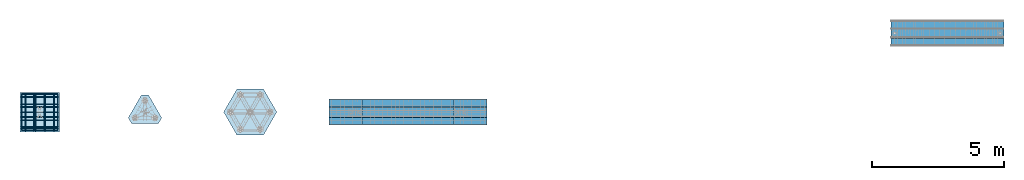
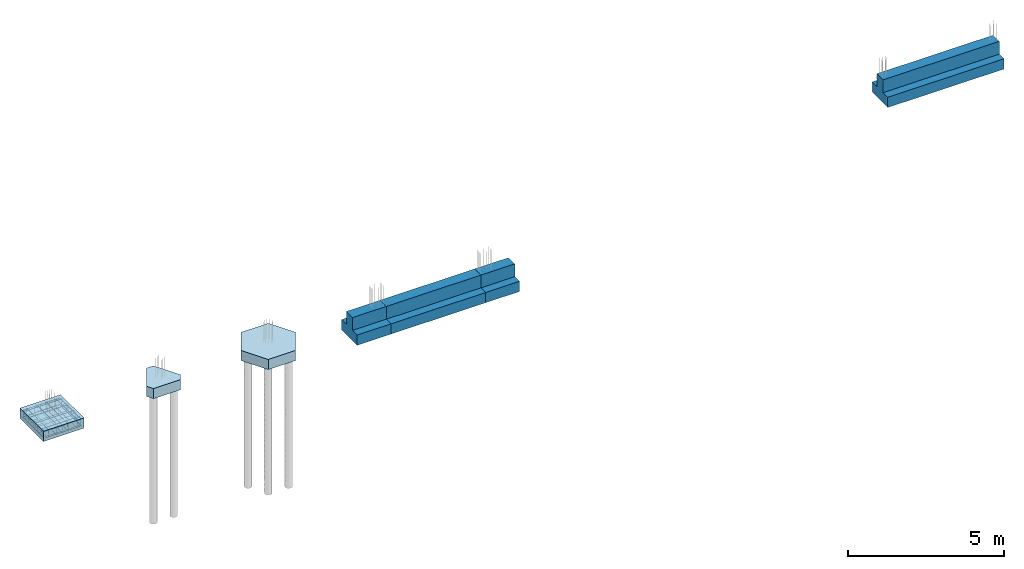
# One storey, part 1 of 23: 5 reinforcing bars, 4 beams, 3 slabs.
"""IFC2X3 building model written with IfcOpenShell, lengths in metres."""

import ifcopenshell
import ifcopenshell.guid

model = None  # the IFC model being written
_history = None  # IfcOwnerHistory: only IFC2X3 demands one
_inside = {}  # id of a spatial element -> (the spatial element, [elements in it])
_under = {}  # id of a project, library or spatial element -> (it, [spatial elements below it])
_declared = {}  # id of a project -> (the project, [libraries it declares])
_typed = {}  # id of a type object -> (the type object, [elements of that type])
_made_of = {}  # id of a material, layer set ... -> (it, [elements and type objects made of it])


def new_model(schema):
    """Start an empty IFC model of exactly this schema.

    Asked for "IFC4X3", IfcOpenShell would pick the latest addendum, in which some entities
    have other attributes; the version numbers below select the first issue.
    IFC2X3 requires an IfcOwnerHistory on every rooted entity: one is made here for all.
    """
    global model, _history
    if schema == "IFC4X3":
        model = ifcopenshell.file(schema_version=(4, 3, 0, 0))
    else:
        model = ifcopenshell.file(schema=schema)
    _inside.clear()
    _under.clear()
    _declared.clear()
    _typed.clear()
    _made_of.clear()
    _history = None
    if model.schema == "IFC2X3":
        org = make("IfcOrganization", Name="unknown")
        user = make(
            "IfcPersonAndOrganization",
            ThePerson=make("IfcPerson", FamilyName="unknown"),
            TheOrganization=org,
        )
        app = make(
            "IfcApplication",
            ApplicationDeveloper=org,
            Version="unknown",
            ApplicationFullName="unknown",
            ApplicationIdentifier="unknown",
        )
        _history = make(
            "IfcOwnerHistory",
            OwningUser=user,
            OwningApplication=app,
            ChangeAction="ADDED",
            CreationDate=0,
        )
    return model


def make(cls, **values):
    """One entity of the class cls with the attributes given. An attribute that is None is left unset."""
    return model.create_entity(
        cls, **{name: value for name, value in values.items() if value is not None}
    )


def entity(cls, *values):
    """Any entity or typed value of the class cls, its attributes in the order of the schema. None: left unset."""
    e = model.create_entity(cls)
    for i, value in enumerate(values):
        if value is not None:
            e[i] = value
    return e


def rooted(cls, **values):
    """An entity with a GlobalId (a new one), such as an element, a storey or a relation."""
    return make(cls, GlobalId=ifcopenshell.guid.new(), OwnerHistory=_history, **values)


def si_unit(unit_type, name, prefix=None):
    """IfcSIUnit, for example si_unit("LENGTHUNIT", "METRE", prefix="MILLI")."""
    return make("IfcSIUnit", UnitType=unit_type, Prefix=prefix, Name=name)


def assignment(units):
    """IfcUnitAssignment: the units of a project."""
    return None if units is None else make("IfcUnitAssignment", Units=units)


def point(xyz):
    """IfcCartesianPoint."""
    return None if xyz is None else make("IfcCartesianPoint", Coordinates=xyz)


def direction(xyz):
    """IfcDirection."""
    return None if xyz is None else make("IfcDirection", DirectionRatios=xyz)


def frame(location, z_axis=None, x_axis=None):
    """IfcAxis2Placement3D, a coordinate frame: its origin and axes. An axis left out is left unset."""
    return make(
        "IfcAxis2Placement3D",
        Location=point(location),
        Axis=direction(z_axis),
        RefDirection=direction(x_axis),
    )


def origin():
    """The frame at (0, 0, 0) with its axes left unset."""
    return frame((0.0, 0.0, 0.0))


def place(relative_to, where):
    """IfcLocalPlacement: puts the frame where relative to a parent placement (None: the world)."""
    return make(
        "IfcLocalPlacement", PlacementRelTo=relative_to, RelativePlacement=where
    )


def context(
    kind, dimensions, precision=None, world=None, true_north=None, identifier=None
):
    """IfcGeometricRepresentationContext, for example the 3D "Model" context."""
    return make(
        "IfcGeometricRepresentationContext",
        ContextIdentifier=identifier,
        ContextType=kind,
        CoordinateSpaceDimension=dimensions,
        Precision=precision,
        WorldCoordinateSystem=world,
        TrueNorth=true_north,
    )


def subcontext(parent, identifier, kind, view, scale=None):
    """IfcGeometricRepresentationSubContext, for example "Body" below "Model"."""
    return make(
        "IfcGeometricRepresentationSubContext",
        ContextIdentifier=identifier,
        ContextType=kind,
        ParentContext=parent,
        TargetScale=scale,
        TargetView=view,
    )


def project(units=None, contexts=None):
    """IfcProject with its units and contexts."""
    return rooted(
        "IfcProject",
        Name="project",
        RepresentationContexts=contexts,
        UnitsInContext=assignment(units),
    )


def spatial(cls, under=None, at=None, **own):
    """A site, building, storey or space (cls), placed at a placement, below another one or the project."""
    s = rooted(cls, ObjectPlacement=at, **own)
    if under is not None:
        _under.setdefault(under.id(), (under, []))[1].append(s)
    return s


def polyline(points):
    """IfcPolyline through the points."""
    return make("IfcPolyline", Points=[point(p) for p in points])


def outline(outer, holes=None, kind="AREA"):
    """IfcArbitraryClosedProfileDef: a profile drawn as a closed curve; with holes, ...WithVoids."""
    if holes is None:
        return make("IfcArbitraryClosedProfileDef", ProfileType=kind, OuterCurve=outer)
    return make(
        "IfcArbitraryProfileDefWithVoids",
        ProfileType=kind,
        OuterCurve=outer,
        InnerCurves=holes,
    )


def extrude(swept, where, along, depth):
    """IfcExtrudedAreaSolid: the profile swept, set in the frame where, extruded along a direction by depth."""
    return make(
        "IfcExtrudedAreaSolid",
        SweptArea=swept,
        Position=where,
        ExtrudedDirection=direction(along),
        Depth=depth,
    )


def shape(context_of_items, identifier, shape_type, items):
    """IfcShapeRepresentation: the items that make up one representation, for example the "Body"."""
    return make(
        "IfcShapeRepresentation",
        ContextOfItems=context_of_items,
        RepresentationIdentifier=identifier,
        RepresentationType=shape_type,
        Items=items,
    )


def source(mapping_origin, context_of_items, identifier, shape_type, items):
    """IfcRepresentationMap: a shape defined once, which mapped items show again and again."""
    return make(
        "IfcRepresentationMap",
        MappingOrigin=mapping_origin,
        MappedRepresentation=shape(context_of_items, identifier, shape_type, items),
    )


def transform(
    local_origin,
    x_axis=None,
    y_axis=None,
    z_axis=None,
    scale=None,
    scale2=None,
    scale3=None,
    uniform=True,
):
    """IfcCartesianTransformationOperator3D, or its non-uniform kind. x_axis, y_axis, z_axis: its Axis1, 2, 3."""
    if uniform:
        return make(
            "IfcCartesianTransformationOperator3D",
            Axis1=direction(x_axis),
            Axis2=direction(y_axis),
            LocalOrigin=point(local_origin),
            Scale=scale,
            Axis3=direction(z_axis),
        )
    return make(
        "IfcCartesianTransformationOperator3DnonUniform",
        Axis1=direction(x_axis),
        Axis2=direction(y_axis),
        LocalOrigin=point(local_origin),
        Scale=scale,
        Axis3=direction(z_axis),
        Scale2=scale2,
        Scale3=scale3,
    )


def mapped(mapping_source, mapping_target):
    """IfcMappedItem: shows the shape of a source again, moved by a transform."""
    return make(
        "IfcMappedItem", MappingSource=mapping_source, MappingTarget=mapping_target
    )


def made_of(thing, what):
    """Note that an element or type object is made of a material, layer set ...; save() writes the relation."""
    if what is not None:
        _made_of.setdefault(what.id(), (what, []))[1].append(thing)
    return thing


def element(
    cls,
    number,
    at=None,
    inside=None,
    cuts=None,
    type_object=None,
    material=None,
    context=None,
    identifier="Body",
    shape_type=None,
    held_by="IfcProductDefinitionShape",
    body=None,
    shapes=None,
    **own,
):
    """One element of the class cls, such as IfcWall. Its Tag is "e" and its number.

    at: its placement. inside: the storey or other place that contains it. cuts: it is an
    opening in that element (IfcRelVoidsElement). A single representation is given by context,
    identifier, shape_type and body (its items); several are given by shapes. held_by: the class
    of the entity that holds the representations. save() writes the other relations.
    """
    e = rooted(cls, Tag="e%d" % number, ObjectPlacement=at, **own)
    if body is not None:
        shapes = [shape(context, identifier, shape_type, body)]
    if shapes is not None:
        e.Representation = make(held_by, Representations=shapes)
    if inside is not None:
        _inside.setdefault(inside.id(), (inside, []))[1].append(e)
    if cuts is not None:
        rooted(
            "IfcRelVoidsElement", RelatingBuildingElement=cuts, RelatedOpeningElement=e
        )
    if type_object is not None:
        _typed.setdefault(type_object.id(), (type_object, []))[1].append(e)
    return made_of(e, material)


def aggregate(whole, parts):
    """IfcRelAggregates: a whole, such as a stair, and the parts it consists of."""
    return rooted("IfcRelAggregates", RelatingObject=whole, RelatedObjects=parts)


def save(model, path):
    """Write the relations noted so far, then the file.

    IfcRelAggregates (storeys below a building ...), IfcRelContainedInSpatialStructure (elements
    in a storey), IfcRelDefinesByType, IfcRelAssociatesMaterial and IfcRelDeclares: one each for
    every whole, place, type object, material and project.
    """
    for whole, parts in _under.values():
        aggregate(whole, parts)
    for where, things in _inside.values():
        rooted(
            "IfcRelContainedInSpatialStructure",
            RelatedElements=things,
            RelatingStructure=where,
        )
    for kind, things in _typed.values():
        rooted("IfcRelDefinesByType", RelatedObjects=things, RelatingType=kind)
    for what, things in _made_of.values():
        rooted("IfcRelAssociatesMaterial", RelatedObjects=things, RelatingMaterial=what)
    for by, libraries in _declared.values():
        rooted("IfcRelDeclares", RelatingContext=by, RelatedDefinitions=libraries)
    model.write(path)


model = new_model("IFC2X3")

# Units and contexts
model_context = context("Model", 3, precision=0.0, world=origin(), true_north=direction((0.0, 1.0)))
plan_context = context("Plan", 3, precision=0.0, world=origin(), true_north=direction((0.0, 1.0)))
body_context = subcontext(model_context, "Body", "Model", "MODEL_VIEW", scale=1.0)
ifc_project = project(units=[si_unit("LENGTHUNIT", "METRE"), si_unit("AREAUNIT", "SQUARE_METRE"), si_unit("VOLUMEUNIT", "CUBIC_METRE"), si_unit("PLANEANGLEUNIT", "RADIAN"), si_unit("THERMODYNAMICTEMPERATUREUNIT", "DEGREE_CELSIUS"), si_unit("FORCEUNIT", "NEWTON"), si_unit("MASSUNIT", "GRAM", prefix="KILO")], contexts=[model_context, plan_context])

# Site, building, storey
placement = place(None, origin())
site = spatial("IfcSite", under=ifc_project, at=placement, Name="Default Site", CompositionType="ELEMENT")
building = spatial("IfcBuilding", under=site, at=placement, Name="Default Building", CompositionType="ELEMENT")
storey_placement = place(placement, frame((0.0, 0.0, 0.0), z_axis=(1.0, 0.0, 0.0), x_axis=(0.0, 0.0, 1.0)))
storey = spatial("IfcBuildingStorey", under=building, at=storey_placement, Name="Piano 0", CompositionType="ELEMENT", Elevation=0.0)

# Beams
beam_1_placement = place(None, frame((11.75, 0.0, -0.55), z_axis=(1.0, 0.0, 0.0), x_axis=(0.0, 1.0, 0.0)))
element("IfcBeam", 1, at=beam_1_placement, inside=storey, Name="Trave:1 [Piano:0]", shapes=[
    shape(model_context, None, "SweptSolid", [extrude(outline(polyline([(-0.2, 0.05), (-0.2, 0.55), (0.2, 0.55), (0.2, 0.05), (0.5, 0.05), (0.5, -0.35), (-0.5, -0.35), (-0.5, 0.05)])), origin(), (0.0, 0.0, 1.0), 4.5)]),
])
for number, where, z_axis, x_axis, name in (
    (2, (11.0, 0.0, -0.55), (1.0, 0.0, 0.0), (0.0, 1.0, 0.0), "Trave:2 [Piano:0]"),
    (3, (15.75, 0.0, -0.55), (1.0, 0.0, 0.0), (0.0, 1.0, 0.0), "Trave:3 [Piano:0]"),
):
    element("IfcBeam", number, at=place(None, frame(where, z_axis=z_axis, x_axis=x_axis)), inside=storey, Name=name, shapes=[
        shape(model_context, None, "SweptSolid", [extrude(outline(polyline([(-0.2, 0.05), (-0.2, 0.55), (0.2, 0.55), (0.2, 0.05), (0.5, 0.05), (0.5, -0.35), (-0.5, -0.35), (-0.5, 0.05)])), origin(), (0.0, 0.0, 1.0), 1.25)]),
    ])
beam_2_placement = place(None, frame((32.35, 3.0, -0.55), z_axis=(1.0, 0.0, 0.0), x_axis=(0.0, 1.0, 0.0)))
element("IfcBeam", 4, at=beam_2_placement, inside=storey, Name="Trave:4 [Piano:0]", shapes=[
    shape(model_context, None, "SweptSolid", [extrude(outline(polyline([(-0.2, 0.05), (-0.2, 0.55), (0.2, 0.55), (0.2, 0.05), (0.5, 0.05), (0.5, -0.35), (-0.5, -0.35), (-0.5, 0.05)])), origin(), (0.0, 0.0, 1.0), 4.3)]),
])

# Slabs
slab_1_placement = place(None, frame((0.0, 0.0, 0.0), z_axis=(0.0, 0.0, -1.0), x_axis=(-1.0, 0.0, 0.0)))
element("IfcSlab", 5, at=slab_1_placement, inside=storey, Name="Plinto:1 [Piano:0]", PredefinedType="NOTDEFINED", shapes=[
    shape(model_context, None, "SweptSolid", [extrude(outline(polyline([(-0.75, -0.75), (0.75, -0.75), (0.75, 0.75), (-0.75, 0.75)])), origin(), (0.0, 0.0, 1.0), 0.4)]),
])
slab_2_placement = place(None, frame((4.0, 0.0, 0.0), z_axis=(0.0, 0.0, -1.0), x_axis=(-1.0, 0.0, 0.0)))
element("IfcSlab", 6, at=slab_2_placement, inside=storey, Name="Plinto:2 [Piano:0]", PredefinedType="NOTDEFINED", shapes=[
    shape(model_context, None, "SweptSolid", [extrude(outline(polyline([(-0.504904, -0.441506), (0.504904, -0.441506), (0.634808, -0.216506), (0.129904, 0.658013), (-0.129904, 0.658013), (-0.634808, -0.216506)])), origin(), (0.0, 0.0, 1.0), 0.4)]),
])
slab_3_placement = place(None, frame((8.0, 0.0, 0.0), z_axis=(0.0, 0.0, -1.0), x_axis=(-1.0, 0.0, 0.0)))
element("IfcSlab", 7, at=slab_3_placement, inside=storey, Name="Plinto:3 [Piano:0]", PredefinedType="NOTDEFINED", shapes=[
    shape(model_context, None, "SweptSolid", [extrude(outline(polyline([(0.504904, -0.874519), (1.009808, 0.0), (0.504904, 0.874519), (-0.504904, 0.874519), (-1.009808, 0.0), (-0.504904, -0.874519)])), origin(), (0.0, 0.0, 1.0), 0.4)]),
])

# Reinforcing bars
shared_shape_1 = source(origin(), body_context, None, "AdvancedSweptSolid", [
    entity("IfcSweptDiskSolid", entity("IfcCompositeCurve", [entity("IfcCompositeCurveSegment", "CONTINUOUS", True, entity("IfcPolyline", [entity("IfcCartesianPoint", [0.0, 0.0, 0.0]), entity("IfcCartesianPoint", [-0.084, 0.0, 0.0]), entity("IfcCartesianPoint", [-0.092, -0.002144, 0.0]), entity("IfcCartesianPoint", [-0.097856, -0.008, 0.0]), entity("IfcCartesianPoint", [-0.1, -0.016, 0.0]), entity("IfcCartesianPoint", [-0.1, -1.356284, 0.0]), entity("IfcCartesianPoint", [-0.097856, -1.364284, 0.0]), entity("IfcCartesianPoint", [-0.092, -1.370141, 0.0]), entity("IfcCartesianPoint", [-0.084, -1.372284, 0.0]), entity("IfcCartesianPoint", [1.256284, -1.372284, 0.0]), entity("IfcCartesianPoint", [1.264284, -1.370141, 0.0]), entity("IfcCartesianPoint", [1.270141, -1.364284, 0.0]), entity("IfcCartesianPoint", [1.272284, -1.356284, 0.0]), entity("IfcCartesianPoint", [1.272284, -1.272284, 0.0])]))], False), 0.004, 0.0, 0.0),
])
shared_shape_2 = source(origin(), body_context, None, "AdvancedSweptSolid", [
    entity("IfcSweptDiskSolid", entity("IfcCompositeCurve", [entity("IfcCompositeCurveSegment", "CONTINUOUS", True, entity("IfcPolyline", [entity("IfcCartesianPoint", [0.0, 0.0, 0.0]), entity("IfcCartesianPoint", [-0.084, 0.0, 0.0]), entity("IfcCartesianPoint", [-0.092, -0.002144, 0.0]), entity("IfcCartesianPoint", [-0.097856, -0.008, 0.0]), entity("IfcCartesianPoint", [-0.1, -0.016, 0.0]), entity("IfcCartesianPoint", [-0.1, -1.356284, 0.0]), entity("IfcCartesianPoint", [-0.097856, -1.364284, 0.0]), entity("IfcCartesianPoint", [-0.092, -1.370141, 0.0]), entity("IfcCartesianPoint", [-0.084, -1.372284, 0.0]), entity("IfcCartesianPoint", [1.256284, -1.372284, 0.0]), entity("IfcCartesianPoint", [1.264284, -1.370141, 0.0]), entity("IfcCartesianPoint", [1.270141, -1.364284, 0.0]), entity("IfcCartesianPoint", [1.272284, -1.356284, 0.0]), entity("IfcCartesianPoint", [1.272284, -1.272284, 0.0])]))], False), 0.004, 0.0, 0.0),
])
shared_shape_3 = source(origin(), body_context, None, "MappedRepresentation", [
    mapped(shared_shape_1, transform((-0.586142, 0.686142, -0.332142))),
    mapped(shared_shape_2, transform((-0.586142, 0.686142, -0.075858))),
])
shared_shape_4 = source(origin(), body_context, None, "AdvancedSweptSolid", [
    entity("IfcSweptDiskSolid", entity("IfcCompositeCurve", [entity("IfcCompositeCurveSegment", "CONTINUOUS", True, entity("IfcPolyline", [entity("IfcCartesianPoint", [0.0, 0.0, 0.0]), entity("IfcCartesianPoint", [0.084, 0.0, 0.0]), entity("IfcCartesianPoint", [0.092, 0.002144, 0.0]), entity("IfcCartesianPoint", [0.097856, 0.008, 0.0]), entity("IfcCartesianPoint", [0.1, 0.016, 0.0]), entity("IfcCartesianPoint", [0.1, 1.356284, 0.0]), entity("IfcCartesianPoint", [0.097856, 1.364284, 0.0]), entity("IfcCartesianPoint", [0.092, 1.370141, 0.0]), entity("IfcCartesianPoint", [0.084, 1.372284, 0.0]), entity("IfcCartesianPoint", [-1.256284, 1.372284, 0.0]), entity("IfcCartesianPoint", [-1.264284, 1.370141, 0.0]), entity("IfcCartesianPoint", [-1.270141, 1.364284, 0.0]), entity("IfcCartesianPoint", [-1.272284, 1.356284, 0.0]), entity("IfcCartesianPoint", [-1.272284, 1.272284, 0.0])]))], False), 0.004, 0.0, 0.0),
])
shared_shape_5 = source(origin(), body_context, None, "AdvancedSweptSolid", [
    entity("IfcSweptDiskSolid", entity("IfcCompositeCurve", [entity("IfcCompositeCurveSegment", "CONTINUOUS", True, entity("IfcPolyline", [entity("IfcCartesianPoint", [0.0, 0.0, 0.0]), entity("IfcCartesianPoint", [0.084, 0.0, 0.0]), entity("IfcCartesianPoint", [0.092, 0.002144, 0.0]), entity("IfcCartesianPoint", [0.097856, 0.008, 0.0]), entity("IfcCartesianPoint", [0.1, 0.016, 0.0]), entity("IfcCartesianPoint", [0.1, 1.356284, 0.0]), entity("IfcCartesianPoint", [0.097856, 1.364284, 0.0]), entity("IfcCartesianPoint", [0.092, 1.370141, 0.0]), entity("IfcCartesianPoint", [0.084, 1.372284, 0.0]), entity("IfcCartesianPoint", [-1.256284, 1.372284, 0.0]), entity("IfcCartesianPoint", [-1.264284, 1.370141, 0.0]), entity("IfcCartesianPoint", [-1.270141, 1.364284, 0.0]), entity("IfcCartesianPoint", [-1.272284, 1.356284, 0.0]), entity("IfcCartesianPoint", [-1.272284, 1.272284, 0.0])]))], False), 0.004, 0.0, 0.0),
])
shared_shape_6 = source(origin(), body_context, None, "MappedRepresentation", [
    mapped(shared_shape_4, transform((0.586142, -0.686142, -0.324142))),
    mapped(shared_shape_5, transform((0.586142, -0.686142, -0.067858))),
])
element("IfcReinforcingBar", 8, at=placement, inside=storey, Name="Arm Generica; Plinto:1 [Piano:0]", BarLength=11.692434, BarRole="NOTDEFINED", BarSurface="TEXTURED", NominalDiameter=0.008, shapes=[
    shape(body_context, None, "MappedRepresentation", [mapped(shared_shape_3, transform((0.0, 0.0, 0.0))), mapped(shared_shape_6, transform((0.0, 0.0, 0.0)))]),
])
shared_shape_7 = source(origin(), body_context, None, "AdvancedSweptSolid", [
    entity("IfcSweptDiskSolid", entity("IfcCompositeCurve", [entity("IfcCompositeCurveSegment", "CONTINUOUS", True, entity("IfcPolyline", [entity("IfcCartesianPoint", [0.0, 0.0, 0.0]), entity("IfcCartesianPoint", [0.0, 0.0, 0.096]), entity("IfcCartesianPoint", [0.003215, 0.0, 0.108]), entity("IfcCartesianPoint", [0.012, 0.0, 0.116785]), entity("IfcCartesianPoint", [0.024, 0.0, 0.12]), entity("IfcCartesianPoint", [1.384, 0.0, 0.12]), entity("IfcCartesianPoint", [1.396, 0.0, 0.116785]), entity("IfcCartesianPoint", [1.404785, 0.0, 0.108]), entity("IfcCartesianPoint", [1.408, 0.0, 0.096]), entity("IfcCartesianPoint", [1.408, 0.0, 0.0])]))], False), 0.006, 0.0, 0.0),
])
shared_shape_8 = source(origin(), body_context, None, "AdvancedSweptSolid", [
    entity("IfcSweptDiskSolid", entity("IfcCompositeCurve", [entity("IfcCompositeCurveSegment", "CONTINUOUS", True, entity("IfcPolyline", [entity("IfcCartesianPoint", [0.0, 0.0, 0.0]), entity("IfcCartesianPoint", [0.0, 0.0, 0.096]), entity("IfcCartesianPoint", [0.003215, 0.0, 0.108]), entity("IfcCartesianPoint", [0.012, 0.0, 0.116785]), entity("IfcCartesianPoint", [0.024, 0.0, 0.12]), entity("IfcCartesianPoint", [1.384, 0.0, 0.12]), entity("IfcCartesianPoint", [1.396, 0.0, 0.116785]), entity("IfcCartesianPoint", [1.404785, 0.0, 0.108]), entity("IfcCartesianPoint", [1.408, 0.0, 0.096]), entity("IfcCartesianPoint", [1.408, 0.0, 0.0])]))], False), 0.006, 0.0, 0.0),
])
shared_shape_9 = source(origin(), body_context, None, "AdvancedSweptSolid", [
    entity("IfcSweptDiskSolid", entity("IfcCompositeCurve", [entity("IfcCompositeCurveSegment", "CONTINUOUS", True, entity("IfcPolyline", [entity("IfcCartesianPoint", [0.0, 0.0, 0.0]), entity("IfcCartesianPoint", [0.0, 0.0, 0.096]), entity("IfcCartesianPoint", [0.003215, 0.0, 0.108]), entity("IfcCartesianPoint", [0.012, 0.0, 0.116785]), entity("IfcCartesianPoint", [0.024, 0.0, 0.12]), entity("IfcCartesianPoint", [1.384, 0.0, 0.12]), entity("IfcCartesianPoint", [1.396, 0.0, 0.116785]), entity("IfcCartesianPoint", [1.404785, 0.0, 0.108]), entity("IfcCartesianPoint", [1.408, 0.0, 0.096]), entity("IfcCartesianPoint", [1.408, 0.0, 0.0])]))], False), 0.006, 0.0, 0.0),
])
shared_shape_10 = source(origin(), body_context, None, "AdvancedSweptSolid", [
    entity("IfcSweptDiskSolid", entity("IfcCompositeCurve", [entity("IfcCompositeCurveSegment", "CONTINUOUS", True, entity("IfcPolyline", [entity("IfcCartesianPoint", [0.0, 0.0, 0.0]), entity("IfcCartesianPoint", [0.0, 0.0, 0.096]), entity("IfcCartesianPoint", [0.003215, 0.0, 0.108]), entity("IfcCartesianPoint", [0.012, 0.0, 0.116785]), entity("IfcCartesianPoint", [0.024, 0.0, 0.12]), entity("IfcCartesianPoint", [1.384, 0.0, 0.12]), entity("IfcCartesianPoint", [1.396, 0.0, 0.116785]), entity("IfcCartesianPoint", [1.404785, 0.0, 0.108]), entity("IfcCartesianPoint", [1.408, 0.0, 0.096]), entity("IfcCartesianPoint", [1.408, 0.0, 0.0])]))], False), 0.006, 0.0, 0.0),
])
element("IfcReinforcingBar", 9, at=placement, inside=storey, Name="Arm Superiore; Plinto:1 [Piano:0]", BarLength=6.50616, BarRole="MAIN", BarSurface="TEXTURED", NominalDiameter=0.012, shapes=[
    shape(body_context, None, "MappedRepresentation", [mapped(shared_shape_7, transform((-0.704, -0.5565, -0.156))), mapped(shared_shape_8, transform((-0.704, -0.1815, -0.156))), mapped(shared_shape_9, transform((-0.704, 0.1935, -0.156))), mapped(shared_shape_10, transform((-0.704, 0.5685, -0.156)))]),
])
shared_shape_11 = source(origin(), body_context, None, "AdvancedSweptSolid", [
    entity("IfcSweptDiskSolid", entity("IfcCompositeCurve", [entity("IfcCompositeCurveSegment", "CONTINUOUS", True, entity("IfcPolyline", [entity("IfcCartesianPoint", [0.0, 0.0, 0.0]), entity("IfcCartesianPoint", [-0.128, 0.0, 0.0]), entity("IfcCartesianPoint", [-0.144, 0.0, -0.004287]), entity("IfcCartesianPoint", [-0.155713, 0.0, -0.016]), entity("IfcCartesianPoint", [-0.16, 0.0, -0.032]), entity("IfcCartesianPoint", [-0.16, 0.0, -0.276]), entity("IfcCartesianPoint", [-0.155713, 0.0, -0.292]), entity("IfcCartesianPoint", [-0.144, 0.0, -0.303713]), entity("IfcCartesianPoint", [-0.128, 0.0, -0.308]), entity("IfcCartesianPoint", [1.216, 0.0, -0.308]), entity("IfcCartesianPoint", [1.232, 0.0, -0.303713]), entity("IfcCartesianPoint", [1.243713, 0.0, -0.292]), entity("IfcCartesianPoint", [1.248, 0.0, -0.276]), entity("IfcCartesianPoint", [1.248, 0.0, -0.032]), entity("IfcCartesianPoint", [1.243713, 0.0, -0.016]), entity("IfcCartesianPoint", [1.232, 0.0, -0.004287]), entity("IfcCartesianPoint", [1.216, 0.0, 0.0]), entity("IfcCartesianPoint", [1.088, 0.0, 0.0])]))], False), 0.008, 0.0, 0.0),
])
shared_shape_12 = source(origin(), body_context, None, "AdvancedSweptSolid", [
    entity("IfcSweptDiskSolid", entity("IfcCompositeCurve", [entity("IfcCompositeCurveSegment", "CONTINUOUS", True, entity("IfcPolyline", [entity("IfcCartesianPoint", [0.0, 0.0, 0.0]), entity("IfcCartesianPoint", [-0.128, 0.0, 0.0]), entity("IfcCartesianPoint", [-0.144, 0.0, -0.004287]), entity("IfcCartesianPoint", [-0.155713, 0.0, -0.016]), entity("IfcCartesianPoint", [-0.16, 0.0, -0.032]), entity("IfcCartesianPoint", [-0.16, 0.0, -0.276]), entity("IfcCartesianPoint", [-0.155713, 0.0, -0.292]), entity("IfcCartesianPoint", [-0.144, 0.0, -0.303713]), entity("IfcCartesianPoint", [-0.128, 0.0, -0.308]), entity("IfcCartesianPoint", [1.216, 0.0, -0.308]), entity("IfcCartesianPoint", [1.232, 0.0, -0.303713]), entity("IfcCartesianPoint", [1.243713, 0.0, -0.292]), entity("IfcCartesianPoint", [1.248, 0.0, -0.276]), entity("IfcCartesianPoint", [1.248, 0.0, -0.032]), entity("IfcCartesianPoint", [1.243713, 0.0, -0.016]), entity("IfcCartesianPoint", [1.232, 0.0, -0.004287]), entity("IfcCartesianPoint", [1.216, 0.0, 0.0]), entity("IfcCartesianPoint", [1.088, 0.0, 0.0])]))], False), 0.008, 0.0, 0.0),
])
shared_shape_13 = source(origin(), body_context, None, "AdvancedSweptSolid", [
    entity("IfcSweptDiskSolid", entity("IfcCompositeCurve", [entity("IfcCompositeCurveSegment", "CONTINUOUS", True, entity("IfcPolyline", [entity("IfcCartesianPoint", [0.0, 0.0, 0.0]), entity("IfcCartesianPoint", [-0.128, 0.0, 0.0]), entity("IfcCartesianPoint", [-0.144, 0.0, -0.004287]), entity("IfcCartesianPoint", [-0.155713, 0.0, -0.016]), entity("IfcCartesianPoint", [-0.16, 0.0, -0.032]), entity("IfcCartesianPoint", [-0.16, 0.0, -0.276]), entity("IfcCartesianPoint", [-0.155713, 0.0, -0.292]), entity("IfcCartesianPoint", [-0.144, 0.0, -0.303713]), entity("IfcCartesianPoint", [-0.128, 0.0, -0.308]), entity("IfcCartesianPoint", [1.216, 0.0, -0.308]), entity("IfcCartesianPoint", [1.232, 0.0, -0.303713]), entity("IfcCartesianPoint", [1.243713, 0.0, -0.292]), entity("IfcCartesianPoint", [1.248, 0.0, -0.276]), entity("IfcCartesianPoint", [1.248, 0.0, -0.032]), entity("IfcCartesianPoint", [1.243713, 0.0, -0.016]), entity("IfcCartesianPoint", [1.232, 0.0, -0.004287]), entity("IfcCartesianPoint", [1.216, 0.0, 0.0]), entity("IfcCartesianPoint", [1.088, 0.0, 0.0])]))], False), 0.008, 0.0, 0.0),
])
shared_shape_14 = source(origin(), body_context, None, "AdvancedSweptSolid", [
    entity("IfcSweptDiskSolid", entity("IfcCompositeCurve", [entity("IfcCompositeCurveSegment", "CONTINUOUS", True, entity("IfcPolyline", [entity("IfcCartesianPoint", [0.0, 0.0, 0.0]), entity("IfcCartesianPoint", [-0.128, 0.0, 0.0]), entity("IfcCartesianPoint", [-0.144, 0.0, -0.004287]), entity("IfcCartesianPoint", [-0.155713, 0.0, -0.016]), entity("IfcCartesianPoint", [-0.16, 0.0, -0.032]), entity("IfcCartesianPoint", [-0.16, 0.0, -0.276]), entity("IfcCartesianPoint", [-0.155713, 0.0, -0.292]), entity("IfcCartesianPoint", [-0.144, 0.0, -0.303713]), entity("IfcCartesianPoint", [-0.128, 0.0, -0.308]), entity("IfcCartesianPoint", [1.216, 0.0, -0.308]), entity("IfcCartesianPoint", [1.232, 0.0, -0.303713]), entity("IfcCartesianPoint", [1.243713, 0.0, -0.292]), entity("IfcCartesianPoint", [1.248, 0.0, -0.276]), entity("IfcCartesianPoint", [1.248, 0.0, -0.032]), entity("IfcCartesianPoint", [1.243713, 0.0, -0.016]), entity("IfcCartesianPoint", [1.232, 0.0, -0.004287]), entity("IfcCartesianPoint", [1.216, 0.0, 0.0]), entity("IfcCartesianPoint", [1.088, 0.0, 0.0])]))], False), 0.008, 0.0, 0.0),
])
shared_shape_15 = source(origin(), body_context, None, "AdvancedSweptSolid", [
    entity("IfcSweptDiskSolid", entity("IfcCompositeCurve", [entity("IfcCompositeCurveSegment", "CONTINUOUS", True, entity("IfcPolyline", [entity("IfcCartesianPoint", [0.0, 0.0, 0.0]), entity("IfcCartesianPoint", [-0.128, 0.0, 0.0]), entity("IfcCartesianPoint", [-0.144, 0.0, -0.004287]), entity("IfcCartesianPoint", [-0.155713, 0.0, -0.016]), entity("IfcCartesianPoint", [-0.16, 0.0, -0.032]), entity("IfcCartesianPoint", [-0.16, 0.0, -0.276]), entity("IfcCartesianPoint", [-0.155713, 0.0, -0.292]), entity("IfcCartesianPoint", [-0.144, 0.0, -0.303713]), entity("IfcCartesianPoint", [-0.128, 0.0, -0.308]), entity("IfcCartesianPoint", [1.216, 0.0, -0.308]), entity("IfcCartesianPoint", [1.232, 0.0, -0.303713]), entity("IfcCartesianPoint", [1.243713, 0.0, -0.292]), entity("IfcCartesianPoint", [1.248, 0.0, -0.276]), entity("IfcCartesianPoint", [1.248, 0.0, -0.032]), entity("IfcCartesianPoint", [1.243713, 0.0, -0.016]), entity("IfcCartesianPoint", [1.232, 0.0, -0.004287]), entity("IfcCartesianPoint", [1.216, 0.0, 0.0]), entity("IfcCartesianPoint", [1.088, 0.0, 0.0])]))], False), 0.008, 0.0, 0.0),
])
element("IfcReinforcingBar", 10, at=placement, inside=storey, Name="Arm Inferiore; Plinto:1 [Piano:0]", BarLength=11.433865, BarRole="MAIN", BarSurface="TEXTURED", NominalDiameter=0.016, shapes=[
    shape(body_context, None, "MappedRepresentation", [mapped(shared_shape_11, transform((-0.544, -0.608, -0.038))), mapped(shared_shape_12, transform((-0.544, -0.308, -0.038))), mapped(shared_shape_13, transform((-0.544, -0.008, -0.038))), mapped(shared_shape_14, transform((-0.544, 0.292, -0.038))), mapped(shared_shape_15, transform((-0.544, 0.592, -0.038)))]),
])
shared_shape_16 = source(origin(), body_context, None, "AdvancedSweptSolid", [
    entity("IfcSweptDiskSolid", entity("IfcCompositeCurve", [entity("IfcCompositeCurveSegment", "CONTINUOUS", True, entity("IfcPolyline", [entity("IfcCartesianPoint", [0.0, 0.0, 0.0]), entity("IfcCartesianPoint", [0.0, 0.0, 0.096]), entity("IfcCartesianPoint", [0.0, 0.003215, 0.108]), entity("IfcCartesianPoint", [0.0, 0.012, 0.116785]), entity("IfcCartesianPoint", [0.0, 0.024, 0.12]), entity("IfcCartesianPoint", [0.0, 1.384, 0.12]), entity("IfcCartesianPoint", [0.0, 1.396, 0.116785]), entity("IfcCartesianPoint", [0.0, 1.404785, 0.108]), entity("IfcCartesianPoint", [0.0, 1.408, 0.096]), entity("IfcCartesianPoint", [0.0, 1.408, 0.0])]))], False), 0.006, 0.0, 0.0),
])
shared_shape_17 = source(origin(), body_context, None, "AdvancedSweptSolid", [
    entity("IfcSweptDiskSolid", entity("IfcCompositeCurve", [entity("IfcCompositeCurveSegment", "CONTINUOUS", True, entity("IfcPolyline", [entity("IfcCartesianPoint", [0.0, 0.0, 0.0]), entity("IfcCartesianPoint", [0.0, 0.0, 0.096]), entity("IfcCartesianPoint", [0.0, 0.003215, 0.108]), entity("IfcCartesianPoint", [0.0, 0.012, 0.116785]), entity("IfcCartesianPoint", [0.0, 0.024, 0.12]), entity("IfcCartesianPoint", [0.0, 1.384, 0.12]), entity("IfcCartesianPoint", [0.0, 1.396, 0.116785]), entity("IfcCartesianPoint", [0.0, 1.404785, 0.108]), entity("IfcCartesianPoint", [0.0, 1.408, 0.096]), entity("IfcCartesianPoint", [0.0, 1.408, 0.0])]))], False), 0.006, 0.0, 0.0),
])
shared_shape_18 = source(origin(), body_context, None, "AdvancedSweptSolid", [
    entity("IfcSweptDiskSolid", entity("IfcCompositeCurve", [entity("IfcCompositeCurveSegment", "CONTINUOUS", True, entity("IfcPolyline", [entity("IfcCartesianPoint", [0.0, 0.0, 0.0]), entity("IfcCartesianPoint", [0.0, 0.0, 0.096]), entity("IfcCartesianPoint", [0.0, 0.003215, 0.108]), entity("IfcCartesianPoint", [0.0, 0.012, 0.116785]), entity("IfcCartesianPoint", [0.0, 0.024, 0.12]), entity("IfcCartesianPoint", [0.0, 1.384, 0.12]), entity("IfcCartesianPoint", [0.0, 1.396, 0.116785]), entity("IfcCartesianPoint", [0.0, 1.404785, 0.108]), entity("IfcCartesianPoint", [0.0, 1.408, 0.096]), entity("IfcCartesianPoint", [0.0, 1.408, 0.0])]))], False), 0.006, 0.0, 0.0),
])
shared_shape_19 = source(origin(), body_context, None, "AdvancedSweptSolid", [
    entity("IfcSweptDiskSolid", entity("IfcCompositeCurve", [entity("IfcCompositeCurveSegment", "CONTINUOUS", True, entity("IfcPolyline", [entity("IfcCartesianPoint", [0.0, 0.0, 0.0]), entity("IfcCartesianPoint", [0.0, 0.0, 0.096]), entity("IfcCartesianPoint", [0.0, 0.003215, 0.108]), entity("IfcCartesianPoint", [0.0, 0.012, 0.116785]), entity("IfcCartesianPoint", [0.0, 0.024, 0.12]), entity("IfcCartesianPoint", [0.0, 1.384, 0.12]), entity("IfcCartesianPoint", [0.0, 1.396, 0.116785]), entity("IfcCartesianPoint", [0.0, 1.404785, 0.108]), entity("IfcCartesianPoint", [0.0, 1.408, 0.096]), entity("IfcCartesianPoint", [0.0, 1.408, 0.0])]))], False), 0.006, 0.0, 0.0),
])
element("IfcReinforcingBar", 11, at=placement, inside=storey, Name="Arm Superiore; Plinto:1 [Piano:0]", BarLength=6.50616, BarRole="MAIN", BarSurface="TEXTURED", NominalDiameter=0.012, shapes=[
    shape(body_context, None, "MappedRepresentation", [mapped(shared_shape_16, transform((-0.5325, -0.704, -0.168))), mapped(shared_shape_17, transform((-0.1575, -0.704, -0.168))), mapped(shared_shape_18, transform((0.1695, -0.704, -0.168))), mapped(shared_shape_19, transform((0.5445, -0.704, -0.168)))]),
])
shared_shape_20 = source(origin(), body_context, None, "AdvancedSweptSolid", [
    entity("IfcSweptDiskSolid", entity("IfcCompositeCurve", [entity("IfcCompositeCurveSegment", "CONTINUOUS", True, entity("IfcPolyline", [entity("IfcCartesianPoint", [0.0, 0.0, 0.0]), entity("IfcCartesianPoint", [0.0, -0.128, 0.0]), entity("IfcCartesianPoint", [0.0, -0.144, -0.004287]), entity("IfcCartesianPoint", [0.0, -0.155713, -0.016]), entity("IfcCartesianPoint", [0.0, -0.16, -0.032]), entity("IfcCartesianPoint", [0.0, -0.16, -0.276]), entity("IfcCartesianPoint", [0.0, -0.155713, -0.292]), entity("IfcCartesianPoint", [0.0, -0.144, -0.303713]), entity("IfcCartesianPoint", [0.0, -0.128, -0.308]), entity("IfcCartesianPoint", [0.0, 1.216, -0.308]), entity("IfcCartesianPoint", [0.0, 1.232, -0.303713]), entity("IfcCartesianPoint", [0.0, 1.243713, -0.292]), entity("IfcCartesianPoint", [0.0, 1.248, -0.276]), entity("IfcCartesianPoint", [0.0, 1.248, -0.032]), entity("IfcCartesianPoint", [0.0, 1.243713, -0.016]), entity("IfcCartesianPoint", [0.0, 1.232, -0.004287]), entity("IfcCartesianPoint", [0.0, 1.216, 0.0]), entity("IfcCartesianPoint", [0.0, 1.088, 0.0])]))], False), 0.008, 0.0, 0.0),
])
shared_shape_21 = source(origin(), body_context, None, "AdvancedSweptSolid", [
    entity("IfcSweptDiskSolid", entity("IfcCompositeCurve", [entity("IfcCompositeCurveSegment", "CONTINUOUS", True, entity("IfcPolyline", [entity("IfcCartesianPoint", [0.0, 0.0, 0.0]), entity("IfcCartesianPoint", [0.0, -0.128, 0.0]), entity("IfcCartesianPoint", [0.0, -0.144, -0.004287]), entity("IfcCartesianPoint", [0.0, -0.155713, -0.016]), entity("IfcCartesianPoint", [0.0, -0.16, -0.032]), entity("IfcCartesianPoint", [0.0, -0.16, -0.276]), entity("IfcCartesianPoint", [0.0, -0.155713, -0.292]), entity("IfcCartesianPoint", [0.0, -0.144, -0.303713]), entity("IfcCartesianPoint", [0.0, -0.128, -0.308]), entity("IfcCartesianPoint", [0.0, 1.216, -0.308]), entity("IfcCartesianPoint", [0.0, 1.232, -0.303713]), entity("IfcCartesianPoint", [0.0, 1.243713, -0.292]), entity("IfcCartesianPoint", [0.0, 1.248, -0.276]), entity("IfcCartesianPoint", [0.0, 1.248, -0.032]), entity("IfcCartesianPoint", [0.0, 1.243713, -0.016]), entity("IfcCartesianPoint", [0.0, 1.232, -0.004287]), entity("IfcCartesianPoint", [0.0, 1.216, 0.0]), entity("IfcCartesianPoint", [0.0, 1.088, 0.0])]))], False), 0.008, 0.0, 0.0),
])
shared_shape_22 = source(origin(), body_context, None, "AdvancedSweptSolid", [
    entity("IfcSweptDiskSolid", entity("IfcCompositeCurve", [entity("IfcCompositeCurveSegment", "CONTINUOUS", True, entity("IfcPolyline", [entity("IfcCartesianPoint", [0.0, 0.0, 0.0]), entity("IfcCartesianPoint", [0.0, -0.128, 0.0]), entity("IfcCartesianPoint", [0.0, -0.144, -0.004287]), entity("IfcCartesianPoint", [0.0, -0.155713, -0.016]), entity("IfcCartesianPoint", [0.0, -0.16, -0.032]), entity("IfcCartesianPoint", [0.0, -0.16, -0.276]), entity("IfcCartesianPoint", [0.0, -0.155713, -0.292]), entity("IfcCartesianPoint", [0.0, -0.144, -0.303713]), entity("IfcCartesianPoint", [0.0, -0.128, -0.308]), entity("IfcCartesianPoint", [0.0, 1.216, -0.308]), entity("IfcCartesianPoint", [0.0, 1.232, -0.303713]), entity("IfcCartesianPoint", [0.0, 1.243713, -0.292]), entity("IfcCartesianPoint", [0.0, 1.248, -0.276]), entity("IfcCartesianPoint", [0.0, 1.248, -0.032]), entity("IfcCartesianPoint", [0.0, 1.243713, -0.016]), entity("IfcCartesianPoint", [0.0, 1.232, -0.004287]), entity("IfcCartesianPoint", [0.0, 1.216, 0.0]), entity("IfcCartesianPoint", [0.0, 1.088, 0.0])]))], False), 0.008, 0.0, 0.0),
])
shared_shape_23 = source(origin(), body_context, None, "AdvancedSweptSolid", [
    entity("IfcSweptDiskSolid", entity("IfcCompositeCurve", [entity("IfcCompositeCurveSegment", "CONTINUOUS", True, entity("IfcPolyline", [entity("IfcCartesianPoint", [0.0, 0.0, 0.0]), entity("IfcCartesianPoint", [0.0, -0.128, 0.0]), entity("IfcCartesianPoint", [0.0, -0.144, -0.004287]), entity("IfcCartesianPoint", [0.0, -0.155713, -0.016]), entity("IfcCartesianPoint", [0.0, -0.16, -0.032]), entity("IfcCartesianPoint", [0.0, -0.16, -0.276]), entity("IfcCartesianPoint", [0.0, -0.155713, -0.292]), entity("IfcCartesianPoint", [0.0, -0.144, -0.303713]), entity("IfcCartesianPoint", [0.0, -0.128, -0.308]), entity("IfcCartesianPoint", [0.0, 1.216, -0.308]), entity("IfcCartesianPoint", [0.0, 1.232, -0.303713]), entity("IfcCartesianPoint", [0.0, 1.243713, -0.292]), entity("IfcCartesianPoint", [0.0, 1.248, -0.276]), entity("IfcCartesianPoint", [0.0, 1.248, -0.032]), entity("IfcCartesianPoint", [0.0, 1.243713, -0.016]), entity("IfcCartesianPoint", [0.0, 1.232, -0.004287]), entity("IfcCartesianPoint", [0.0, 1.216, 0.0]), entity("IfcCartesianPoint", [0.0, 1.088, 0.0])]))], False), 0.008, 0.0, 0.0),
])
shared_shape_24 = source(origin(), body_context, None, "AdvancedSweptSolid", [
    entity("IfcSweptDiskSolid", entity("IfcCompositeCurve", [entity("IfcCompositeCurveSegment", "CONTINUOUS", True, entity("IfcPolyline", [entity("IfcCartesianPoint", [0.0, 0.0, 0.0]), entity("IfcCartesianPoint", [0.0, -0.128, 0.0]), entity("IfcCartesianPoint", [0.0, -0.144, -0.004287]), entity("IfcCartesianPoint", [0.0, -0.155713, -0.016]), entity("IfcCartesianPoint", [0.0, -0.16, -0.032]), entity("IfcCartesianPoint", [0.0, -0.16, -0.276]), entity("IfcCartesianPoint", [0.0, -0.155713, -0.292]), entity("IfcCartesianPoint", [0.0, -0.144, -0.303713]), entity("IfcCartesianPoint", [0.0, -0.128, -0.308]), entity("IfcCartesianPoint", [0.0, 1.216, -0.308]), entity("IfcCartesianPoint", [0.0, 1.232, -0.303713]), entity("IfcCartesianPoint", [0.0, 1.243713, -0.292]), entity("IfcCartesianPoint", [0.0, 1.248, -0.276]), entity("IfcCartesianPoint", [0.0, 1.248, -0.032]), entity("IfcCartesianPoint", [0.0, 1.243713, -0.016]), entity("IfcCartesianPoint", [0.0, 1.232, -0.004287]), entity("IfcCartesianPoint", [0.0, 1.216, 0.0]), entity("IfcCartesianPoint", [0.0, 1.088, 0.0])]))], False), 0.008, 0.0, 0.0),
])
element("IfcReinforcingBar", 12, at=placement, inside=storey, Name="Arm Inferiore; Plinto:1 [Piano:0]", BarLength=11.433865, BarRole="MAIN", BarSurface="TEXTURED", NominalDiameter=0.016, shapes=[
    shape(body_context, None, "MappedRepresentation", [mapped(shared_shape_20, transform((-0.5465, -0.544, -0.054))), mapped(shared_shape_21, transform((-0.226, -0.544, -0.054))), mapped(shared_shape_22, transform((-0.008, -0.544, -0.054))), mapped(shared_shape_23, transform((0.21, -0.544, -0.054))), mapped(shared_shape_24, transform((0.5305, -0.544, -0.054)))]),
])

save(model, "model.ifc")
